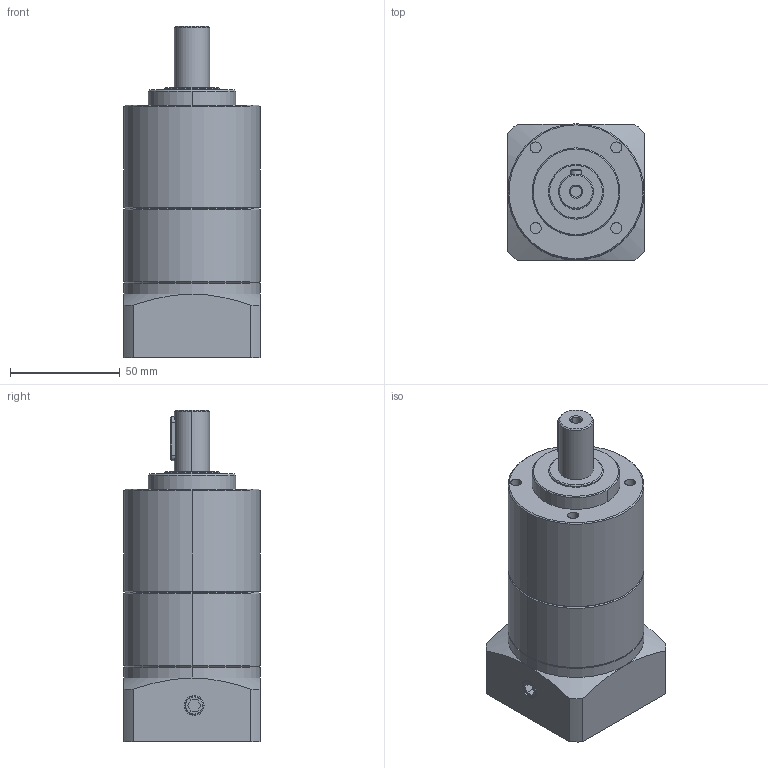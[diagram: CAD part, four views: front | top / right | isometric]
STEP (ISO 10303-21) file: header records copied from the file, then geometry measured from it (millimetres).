
FILE_DESCRIPTION((''),'2;1');
FILE_NAME('01-0_ASM','2017-04-23T',('Administrator'),(''),'PRO/ENGINEER BY PARAMETRIC TECHNOLOGY CORPORATION, 2010280','PRO/ENGINEER BY PARAMETRIC TECHNOLOGY CORPORATION, 2010280','');
FILE_SCHEMA(('CONFIG_CONTROL_DESIGN'));
Length unit declared in the file: millimetre
Products named in the file (11): 01-1; 01-2; 01-3; 01-04; 01-06; 01-07; 01-08_ASM; 01-05; 01-08; 01-09; 01-0_ASM
Assembly tree (14 placements, depth 3):
  01-0_ASM
    01-1
    01-2
    01-3
    01-04  x2
    01-08_ASM
      01-06
      01-07
    01-05
    01-08  x4
    01-09
Bounding box: 62 x 62 x 151 mm (x, y, z)
Volume: 341153.3 mm3; surface area: 66100.7 mm2
Topology: 13 solids, 13 shells, 256 faces, 556 edges, 356 vertices
Faces by surface type: plane 123, cylinder 88, cone 43, torus 2
Entity records: 6087 total; most frequent: CARTESIAN_POINT 1174, DIRECTION 1087, ORIENTED_EDGE 888, EDGE_CURVE 444, AXIS2_PLACEMENT_3D 435, VERTEX_POINT 284, EDGE_LOOP 240, VECTOR 217
